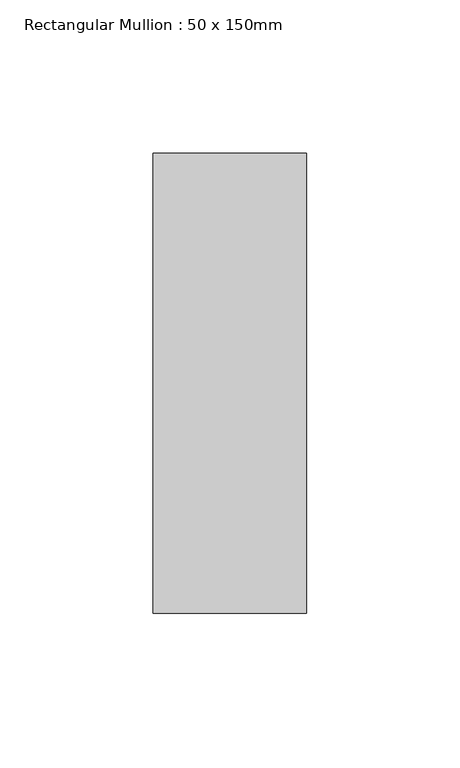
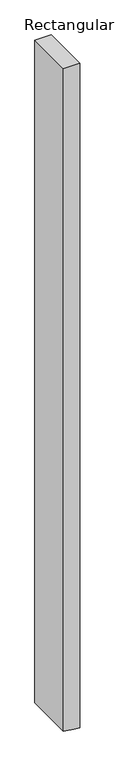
"""IFC4 building model written with IfcOpenShell, lengths in millimetres: member geometry, Rectangular Mullion : 50 x 150mm."""

from ifc_helpers import new_model, si_unit, frame, origin, place, context, project, spatial, polyline, outline, extrude, source, transform, mapped, element, save


def rectangular_mullion_50_x_150mm_790feaf4(model_context):
    return source(origin(), model_context, "Body", "SweptSolid", [
        extrude(outline(polyline([(0.0, 25.0), (0.0, -25.0), (-2122.4175187, -25.0), (-2125.8976779, 5.6423937), (-2128.0961861, 25.0), (0.0, 25.0)])), frame((0.0, -75.0, 0.0), z_axis=(0.0, 1.0, 0.0), x_axis=(0.0, 0.0, 1.0)), (0.0, 0.0, 1.0), 150.0),
    ])


if __name__ == "__main__":
    model = new_model("IFC4")
    model_context = context("Model", 3, world=origin())
    ifc_project = project(units=[si_unit("LENGTHUNIT", "METRE", prefix="MILLI")], contexts=[model_context])
    site = spatial("IfcSite", under=ifc_project)
    building = spatial("IfcBuilding", under=site)
    placement = place(None, origin())
    rectangular_mullion_50_x_150mm_shape = rectangular_mullion_50_x_150mm_790feaf4(model_context)
    element("IfcMember", 1, ObjectType="Rectangular Mullion : 50 x 150mm", at=placement, inside=building, context=model_context, shape_type="MappedRepresentation", body=[
        mapped(rectangular_mullion_50_x_150mm_shape, transform((0.0, 0.0, 0.0), x_axis=(1.0, 0.0, 0.0), y_axis=(0.0, 1.0, 0.0), z_axis=(0.0, 0.0, 1.0))),
    ])
    save(model, "model.ifc")
